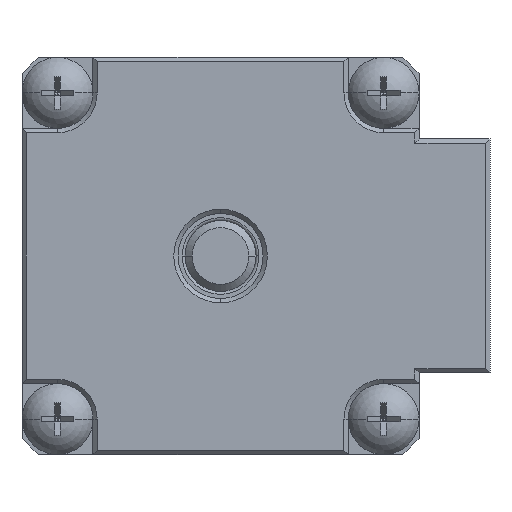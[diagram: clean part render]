
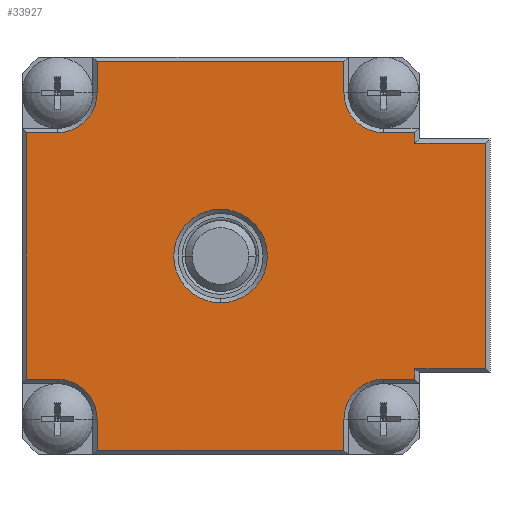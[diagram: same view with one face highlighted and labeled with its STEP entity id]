
A CAD part, front view. The second image highlights one B-rep face of the part: STEP entity #33927.
In plain terms, the highlighted planar face has unit normal (0, -1, 0).
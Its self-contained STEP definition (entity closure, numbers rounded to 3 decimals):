
#3879=DIRECTION('',(0.,0.,1.));
#3880=VECTOR('',#3879,0.75);
#3881=CARTESIAN_POINT('',(13.7,-2.5,7.95));
#3882=LINE('',#3881,#3880);
#3883=DIRECTION('',(-1.,0.,0.));
#3884=VECTOR('',#3883,5.);
#3885=CARTESIAN_POINT('',(18.7,-2.5,7.95));
#3886=LINE('',#3885,#3884);
#3887=DIRECTION('',(0.,0.,-1.));
#3888=VECTOR('',#3887,15.9);
#3889=CARTESIAN_POINT('',(18.7,-2.5,7.95));
#3890=LINE('',#3889,#3888);
#3891=DIRECTION('',(-1.,0.,0.));
#3892=VECTOR('',#3891,5.);
#3893=CARTESIAN_POINT('',(18.7,-2.5,-7.95));
#3894=LINE('',#3893,#3892);
#3895=DIRECTION('',(0.,0.,1.));
#3896=VECTOR('',#3895,0.75);
#3897=CARTESIAN_POINT('',(13.7,-2.5,-8.7));
#3898=LINE('',#3897,#3896);
#3899=DIRECTION('',(1.,0.,0.));
#3900=VECTOR('',#3899,2.2);
#3901=CARTESIAN_POINT('',(11.5,-2.5,
-8.7));
#3902=LINE('',#3901,#3900);
#3903=CARTESIAN_POINT('',(11.5,-2.5,-11.5));
#3904=DIRECTION('',(0.,1.,0.));
#3905=DIRECTION('',(-1.,0.,0.));
#3906=AXIS2_PLACEMENT_3D('',#3903,#3904,#3905);
#3908=DIRECTION('',(0.,0.,1.));
#3909=VECTOR('',#3908,2.2);
#3910=CARTESIAN_POINT('',(8.7,-2.5,-13.7));
#3911=LINE('',#3910,#3909);
#3912=DIRECTION('',(1.,0.,0.));
#3913=VECTOR('',#3912,17.4);
#3914=CARTESIAN_POINT('',(-8.7,-2.5,-13.7));
#3915=LINE('',#3914,#3913);
#3916=DIRECTION('',(0.,0.,-1.));
#3917=VECTOR('',#3916,2.2);
#3918=CARTESIAN_POINT('',(-8.7,-2.5,
-11.5));
#3919=LINE('',#3918,#3917);
#3920=CARTESIAN_POINT('',(-11.5,-2.5,-11.5));
#3921=DIRECTION('',(0.,1.,0.));
#3922=DIRECTION('',(0.,0.,1.));
#3923=AXIS2_PLACEMENT_3D('',#3920,#3921,#3922);
#3925=DIRECTION('',(1.,0.,0.));
#3926=VECTOR('',#3925,2.2);
#3927=CARTESIAN_POINT('',(-13.7,-2.5,-8.7));
#3928=LINE('',#3927,#3926);
#3929=DIRECTION('',(0.,0.,-1.));
#3930=VECTOR('',#3929,17.4);
#3931=CARTESIAN_POINT('',(-13.7,-2.5,8.7));
#3932=LINE('',#3931,#3930);
#3933=DIRECTION('',(-1.,0.,0.));
#3934=VECTOR('',#3933,2.2);
#3935=CARTESIAN_POINT('',(-11.5,-2.5,
8.7));
#3936=LINE('',#3935,#3934);
#3937=CARTESIAN_POINT('',(-11.5,-2.5,11.5));
#3938=DIRECTION('',(0.,1.,0.));
#3939=DIRECTION('',(1.,0.,0.));
#3940=AXIS2_PLACEMENT_3D('',#3937,#3938,#3939);
#3942=DIRECTION('',(0.,0.,-1.));
#3943=VECTOR('',#3942,2.2);
#3944=CARTESIAN_POINT('',(-8.7,-2.5,13.7));
#3945=LINE('',#3944,#3943);
#3946=DIRECTION('',(-1.,0.,0.));
#3947=VECTOR('',#3946,17.4);
#3948=CARTESIAN_POINT('',(8.7,-2.5,13.7));
#3949=LINE('',#3948,#3947);
#3950=DIRECTION('',(0.,0.,1.));
#3951=VECTOR('',#3950,2.2);
#3952=CARTESIAN_POINT('',(8.7,-2.5,11.5));
#3953=LINE('',#3952,#3951);
#3954=CARTESIAN_POINT('',(11.5,-2.5,11.5));
#3955=DIRECTION('',(0.,1.,0.));
#3956=DIRECTION('',(0.,0.,-1.));
#3957=AXIS2_PLACEMENT_3D('',#3954,#3955,#3956);
#3959=DIRECTION('',(-1.,0.,0.));
#3960=VECTOR('',#3959,2.2);
#3961=CARTESIAN_POINT('',(13.7,-2.5,8.7));
#3962=LINE('',#3961,#3960);
#3963=CARTESIAN_POINT('',(0.,-2.5,0.));
#3964=DIRECTION('',(0.,1.,0.));
#3965=DIRECTION('',(0.,0.,1.));
#3966=AXIS2_PLACEMENT_3D('',#3963,#3964,#3965);
#3968=CARTESIAN_POINT('',(0.,-2.5,0.));
#3969=DIRECTION('',(0.,1.,0.));
#3970=DIRECTION('',(0.,0.,-1.));
#3971=AXIS2_PLACEMENT_3D('',#3968,#3969,#3970);
#28717=CARTESIAN_POINT('',(13.7,-2.5,7.95));
#28718=CARTESIAN_POINT('',(13.7,-2.5,8.7));
#28719=VERTEX_POINT('',#28717);
#28720=VERTEX_POINT('',#28718);
#28723=CARTESIAN_POINT('',(18.7,-2.5,7.95));
#28724=VERTEX_POINT('',#28723);
#28725=CARTESIAN_POINT('',(18.7,-2.5,-7.95));
#28726=VERTEX_POINT('',#28725);
#28729=CARTESIAN_POINT('',(13.7,-2.5,-7.95));
#28730=VERTEX_POINT('',#28729);
#28733=CARTESIAN_POINT('',(13.7,-2.5,-8.7));
#28734=VERTEX_POINT('',#28733);
#28739=CARTESIAN_POINT('',(11.5,-2.5,
-8.7));
#28740=VERTEX_POINT('',#28739);
#28741=CARTESIAN_POINT('',(8.7,-2.5,-11.5));
#28742=VERTEX_POINT('',#28741);
#28745=CARTESIAN_POINT('',(8.7,-2.5,-13.7));
#28746=VERTEX_POINT('',#28745);
#28751=CARTESIAN_POINT('',(-8.7,-2.5,-13.7));
#28752=VERTEX_POINT('',#28751);
#28753=CARTESIAN_POINT('',(-13.7,-2.5,-8.7));
#28754=CARTESIAN_POINT('',(-11.5,-2.5,
-8.7));
#28755=VERTEX_POINT('',#28753);
#28756=VERTEX_POINT('',#28754);
#28761=CARTESIAN_POINT('',(-8.7,-2.5,-11.5));
#28762=VERTEX_POINT('',#28761);
#28767=CARTESIAN_POINT('',(-13.7,-2.5,8.7));
#28768=VERTEX_POINT('',#28767);
#28769=CARTESIAN_POINT('',(-8.7,-2.5,13.7));
#28770=CARTESIAN_POINT('',(-8.7,-2.5,
11.5));
#28771=VERTEX_POINT('',#28769);
#28772=VERTEX_POINT('',#28770);
#28777=CARTESIAN_POINT('',(-11.5,-2.5,8.7));
#28778=VERTEX_POINT('',#28777);
#28783=CARTESIAN_POINT('',(8.7,-2.5,13.7));
#28784=VERTEX_POINT('',#28783);
#28785=CARTESIAN_POINT('',(11.5,-2.5,
8.7));
#28786=VERTEX_POINT('',#28785);
#28789=CARTESIAN_POINT('',(8.7,-2.5,11.5));
#28790=VERTEX_POINT('',#28789);
#28869=CARTESIAN_POINT('',(0.,-2.5,3.3));
#28870=CARTESIAN_POINT('',(0.,-2.5,-3.3));
#28871=VERTEX_POINT('',#28869);
#28872=VERTEX_POINT('',#28870);
#33875=CARTESIAN_POINT('',(0.,-2.5,0.));
#33876=DIRECTION('',(0.,1.,0.));
#33877=DIRECTION('',(0.,0.,-1.));
#33878=AXIS2_PLACEMENT_3D('',#33875,#33876,#33877);
#33879=PLANE('',#33878);
#33881=ORIENTED_EDGE('',*,*,#33880,.F.);
#33883=ORIENTED_EDGE('',*,*,#33882,.F.);
#33885=ORIENTED_EDGE('',*,*,#33884,.T.);
#33887=ORIENTED_EDGE('',*,*,#33886,.T.);
#33889=ORIENTED_EDGE('',*,*,#33888,.F.);
#33891=ORIENTED_EDGE('',*,*,#33890,.F.);
#33893=ORIENTED_EDGE('',*,*,#33892,.F.);
#33895=ORIENTED_EDGE('',*,*,#33894,.F.);
#33897=ORIENTED_EDGE('',*,*,#33896,.F.);
#33899=ORIENTED_EDGE('',*,*,#33898,.F.);
#33901=ORIENTED_EDGE('',*,*,#33900,.F.);
#33903=ORIENTED_EDGE('',*,*,#33902,.F.);
#33905=ORIENTED_EDGE('',*,*,#33904,.F.);
#33907=ORIENTED_EDGE('',*,*,#33906,.F.);
#33909=ORIENTED_EDGE('',*,*,#33908,.F.);
#33911=ORIENTED_EDGE('',*,*,#33910,.F.);
#33913=ORIENTED_EDGE('',*,*,#33912,.F.);
#33915=ORIENTED_EDGE('',*,*,#33914,.F.);
#33917=ORIENTED_EDGE('',*,*,#33916,.F.);
#33918=ORIENTED_EDGE('',*,*,#33865,.F.);
#33919=EDGE_LOOP('',(#33881,#33883,#33885,#33887,#33889,#33891,#33893,#33895,
#33897,#33899,#33901,#33903,#33905,#33907,#33909,#33911,#33913,#33915,#33917,
#33918));
#33920=FACE_OUTER_BOUND('',#33919,.F.);
#33922=ORIENTED_EDGE('',*,*,#33921,.F.);
#33924=ORIENTED_EDGE('',*,*,#33923,.F.);
#33925=EDGE_LOOP('',(#33922,#33924));
#33926=FACE_BOUND('',#33925,.F.);
#33927=ADVANCED_FACE('',(#33920,#33926),#33879,.F.);
#3907=CIRCLE('',#3906,2.8);
#3924=CIRCLE('',#3923,2.8);
#3941=CIRCLE('',#3940,2.8);
#3958=CIRCLE('',#3957,2.8);
#3967=CIRCLE('',#3966,3.3);
#3972=CIRCLE('',#3971,3.3);
#33865=EDGE_CURVE('',#28720,#28786,#3962,.T.);
#33880=EDGE_CURVE('',#28719,#28720,#3882,.T.);
#33882=EDGE_CURVE('',#28724,#28719,#3886,.T.);
#33884=EDGE_CURVE('',#28724,#28726,#3890,.T.);
#33886=EDGE_CURVE('',#28726,#28730,#3894,.T.);
#33888=EDGE_CURVE('',#28734,#28730,#3898,.T.);
#33890=EDGE_CURVE('',#28740,#28734,#3902,.T.);
#33892=EDGE_CURVE('',#28742,#28740,#3907,.T.);
#33894=EDGE_CURVE('',#28746,#28742,#3911,.T.);
#33896=EDGE_CURVE('',#28752,#28746,#3915,.T.);
#33898=EDGE_CURVE('',#28762,#28752,#3919,.T.);
#33900=EDGE_CURVE('',#28756,#28762,#3924,.T.);
#33902=EDGE_CURVE('',#28755,#28756,#3928,.T.);
#33904=EDGE_CURVE('',#28768,#28755,#3932,.T.);
#33906=EDGE_CURVE('',#28778,#28768,#3936,.T.);
#33908=EDGE_CURVE('',#28772,#28778,#3941,.T.);
#33910=EDGE_CURVE('',#28771,#28772,#3945,.T.);
#33912=EDGE_CURVE('',#28784,#28771,#3949,.T.);
#33914=EDGE_CURVE('',#28790,#28784,#3953,.T.);
#33916=EDGE_CURVE('',#28786,#28790,#3958,.T.);
#33921=EDGE_CURVE('',#28871,#28872,#3967,.T.);
#33923=EDGE_CURVE('',#28872,#28871,#3972,.T.);
